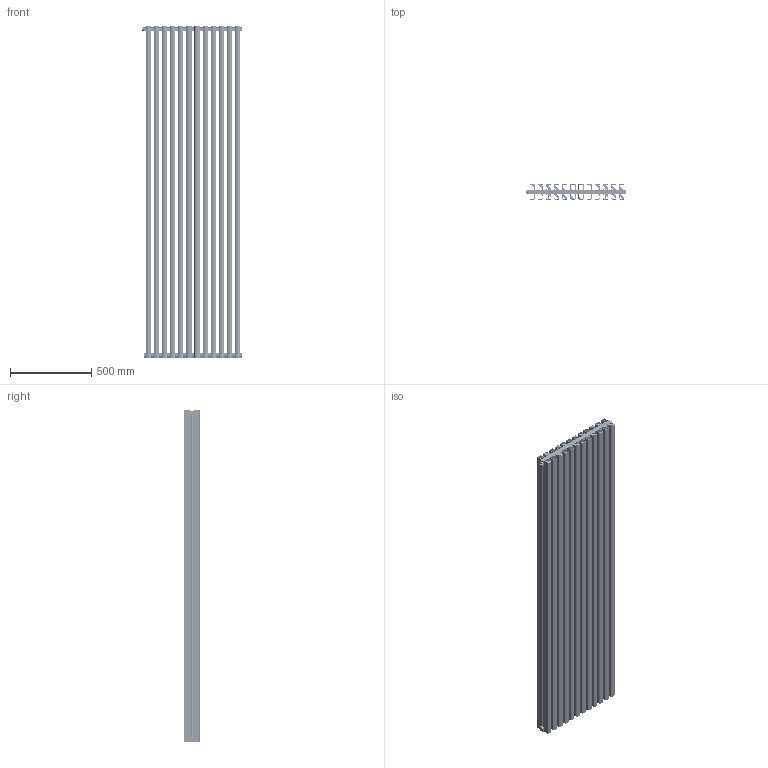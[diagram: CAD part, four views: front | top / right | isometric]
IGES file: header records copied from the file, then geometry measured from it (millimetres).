
Start section: SolidWorks IGES file using analytic representation for surfaces
Global section: file name: S:\RicercaSviluppo\01_DISEGNI\2_DISEGNI\02_ELEMENTI\39_TONALE\39_99_RICHIESTE CLIENTI\39_99_DRL\22-07-24\TONALE 2000_12.IGS; native system: SolidWorks 2024; preprocessor: SolidWorks 2024; author: massimo; date: 240722.104646; units: millimetre
Bounding box: 612.5 x 95 x 2039.3 mm (x, y, z)
Surface area: 17653393.7 mm2 (no closed solid volume)
Topology: 0 solids, 0 shells, 7108 faces, 86483 edges, 86339 vertices
Faces by surface type: revolution 3720, bspline 3388
